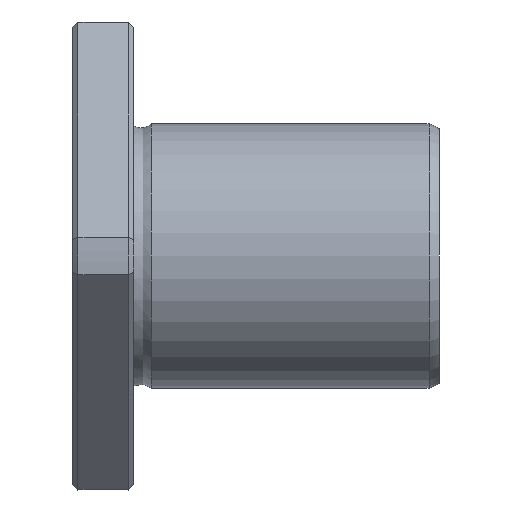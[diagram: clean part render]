
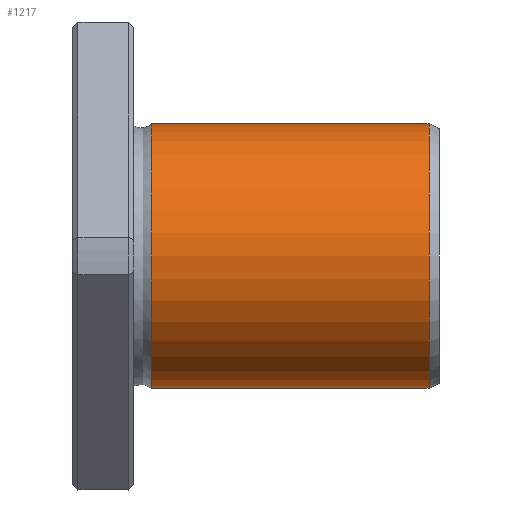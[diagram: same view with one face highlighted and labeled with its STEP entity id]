
A CAD part, front view. The second image highlights one B-rep face of the part: STEP entity #1217.
In plain terms, the highlighted cylindrical face has radius 13 mm (diameter 26 mm), a full revolution.
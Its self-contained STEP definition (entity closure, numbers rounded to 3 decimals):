
#1183=CARTESIAN_POINT('',(34.999,0.0,13.));
#1184=VERTEX_POINT('',#1183);
#1185=CARTESIAN_POINT('',(34.999,0.0,0.0));
#1186=DIRECTION('',(-1.0,0.0,0.0));
#1187=DIRECTION('',(0.0,0.0,1.0));
#1188=AXIS2_PLACEMENT_3D('',#1185,#1186,#1187);
#1189=CIRCLE('',#1188,13.);
#1190=EDGE_CURVE('',#1184,#1184,#1189,.T.);
#1198=CARTESIAN_POINT('',(21.359,0.0,0.0));
#1199=DIRECTION('',(-1.0,0.0,0.0));
#1200=DIRECTION('',(0.0,0.0,1.0));
#1201=AXIS2_PLACEMENT_3D('',#1198,#1199,#1200);
#1202=CYLINDRICAL_SURFACE('',#1201,13.);
#1203=CARTESIAN_POINT('',(7.72,0.0,13.));
#1204=VERTEX_POINT('',#1203);
#1205=CARTESIAN_POINT('',(7.72,0.0,0.0));
#1206=DIRECTION('',(-1.0,0.0,0.0));
#1207=DIRECTION('',(0.0,0.0,1.0));
#1208=AXIS2_PLACEMENT_3D('',#1205,#1206,#1207);
#1209=CIRCLE('',#1208,13.);
#1210=EDGE_CURVE('',#1204,#1204,#1209,.T.);
#1211=ORIENTED_EDGE('',*,*,#1210,.F.);
#1212=EDGE_LOOP('',(#1211));
#1213=FACE_OUTER_BOUND('',#1212,.T.);
#1214=ORIENTED_EDGE('',*,*,#1190,.T.);
#1215=EDGE_LOOP('',(#1214));
#1216=FACE_BOUND('',#1215,.T.);
#1217=ADVANCED_FACE('',(#1213,#1216),#1202,.T.);
